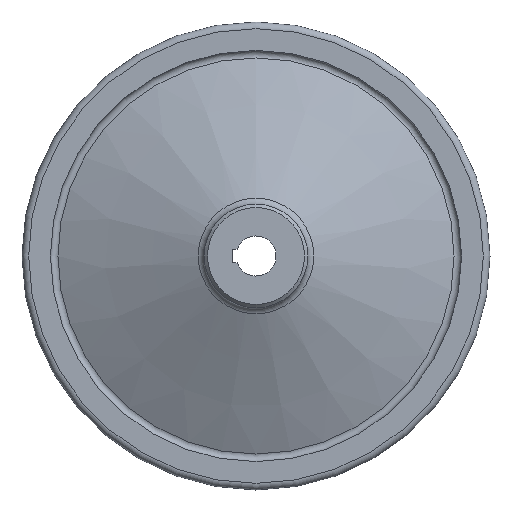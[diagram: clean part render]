
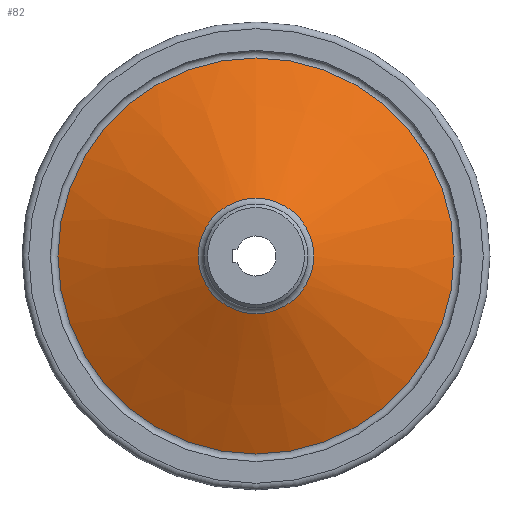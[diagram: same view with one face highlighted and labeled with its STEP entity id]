
A CAD part, left-side view. The second image highlights one B-rep face of the part: STEP entity #82.
In plain terms, the highlighted conical face has half-angle 66 degrees and reference radius 17.28 mm.
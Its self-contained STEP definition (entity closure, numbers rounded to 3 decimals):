
#82 = ADVANCED_FACE( '', ( #120, #121 ), #122, .T. );
#120 = FACE_OUTER_BOUND( '', #188, .T. );
#121 = FACE_BOUND( '', #189, .T. );
#122 = CONICAL_SURFACE( '', #190, 17.28, 1.152 );
#188 = EDGE_LOOP( '', ( #279 ) );
#189 = EDGE_LOOP( '', ( #280 ) );
#190 = AXIS2_PLACEMENT_3D( '', #281, #282, #283 );
#279 = ORIENTED_EDGE( '', *, *, #386, .T. );
#280 = ORIENTED_EDGE( '', *, *, #385, .F. );
#281 = CARTESIAN_POINT( '', ( 9.792, 0., 0. ) );
#282 = DIRECTION( '', ( 1., 0., 0. ) );
#283 = DIRECTION( '', ( 0., 0., -1. ) );
#385 = EDGE_CURVE( '', #429, #429, #430, .T. );
#386 = EDGE_CURVE( '', #431, #431, #432, .T. );
#429 = VERTEX_POINT( '', #495 );
#430 = CIRCLE( '', #496, 17.28 );
#431 = VERTEX_POINT( '', #497 );
#432 = CIRCLE( '', #498, 59.249 );
#495 = CARTESIAN_POINT( '', ( 9.792, 0., 17.28 ) );
#496 = AXIS2_PLACEMENT_3D( '', #556, #557, #558 );
#497 = CARTESIAN_POINT( '', ( 28.478, 0., 59.249 ) );
#498 = AXIS2_PLACEMENT_3D( '', #559, #560, #561 );
#556 = CARTESIAN_POINT( '', ( 9.792, 0., 0. ) );
#557 = DIRECTION( '', ( -1., 0., 0. ) );
#558 = DIRECTION( '', ( 0., 0., 1. ) );
#559 = CARTESIAN_POINT( '', ( 28.478, 0., 0. ) );
#560 = DIRECTION( '', ( -1., 0., 0. ) );
#561 = DIRECTION( '', ( 0., 0., 1. ) );
